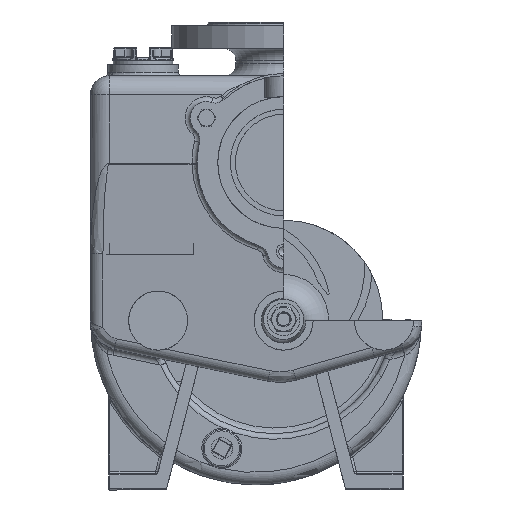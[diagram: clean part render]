
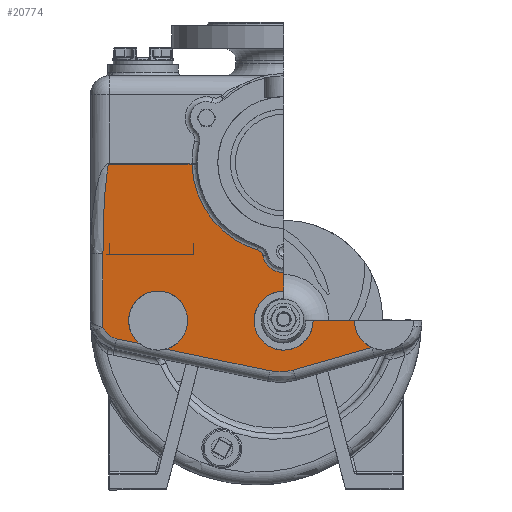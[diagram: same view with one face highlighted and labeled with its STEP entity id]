
A CAD part, left-side view. The second image highlights one B-rep face of the part: STEP entity #20774.
In plain terms, the highlighted planar face has unit normal (-0.998, 0, -0.07) as drawn and (0, -0.07, 0.998) by its records, which use the part's own axes.
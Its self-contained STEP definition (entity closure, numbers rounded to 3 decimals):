
#155=ELLIPSE('',#22818,17.042,17.);
#157=ELLIPSE('',#22821,6.015,6.);
#159=ELLIPSE('',#22824,73.178,73.);
#186=ELLIPSE('',#23026,23.557,23.5);
#187=ELLIPSE('',#23027,23.557,23.5);
#188=ELLIPSE('',#23031,23.557,23.5);
#189=ELLIPSE('',#23037,38.594,38.5);
#190=ELLIPSE('',#23039,15.037,15.);
#206=ELLIPSE('',#23205,71.678,5.);
#208=ELLIPSE('',#23212,23.557,23.5);
#3785=FACE_OUTER_BOUND('',#5088,.T.);
#5088=EDGE_LOOP('',(#16797,#16798,#16799,#16800,#16801,#16802,#16803,#16804,
#16805,#16806,#16807,#16808,#16809,#16810,#16811,#16812,#16813));
#6272=LINE('',#35658,#7571);
#6432=LINE('',#38208,#7731);
#6445=LINE('',#38419,#7744);
#6446=LINE('',#38423,#7745);
#6447=LINE('',#38498,#7746);
#6520=LINE('',#39729,#7819);
#6521=LINE('',#39731,#7820);
#7571=VECTOR('',#26598,10.);
#7731=VECTOR('',#27356,10.);
#7744=VECTOR('',#27389,10.);
#7745=VECTOR('',#27394,10.);
#7746=VECTOR('',#27407,10.);
#7819=VECTOR('',#27814,10.);
#7820=VECTOR('',#27817,10.);
#9229=VERTEX_POINT('',#35649);
#9230=VERTEX_POINT('',#35657);
#9315=VERTEX_POINT('',#36484);
#9317=VERTEX_POINT('',#36514);
#9319=VERTEX_POINT('',#36554);
#9489=VERTEX_POINT('',#38205);
#9490=VERTEX_POINT('',#38207);
#9519=VERTEX_POINT('',#38342);
#9520=VERTEX_POINT('',#38344);
#9521=VERTEX_POINT('',#38346);
#9523=VERTEX_POINT('',#38391);
#9525=VERTEX_POINT('',#38418);
#9526=VERTEX_POINT('',#38421);
#9527=VERTEX_POINT('',#38454);
#9528=VERTEX_POINT('',#38493);
#9610=VERTEX_POINT('',#39720);
#9611=VERTEX_POINT('',#39722);
#11544=EDGE_CURVE('',#9230,#9229,#6272,.T.);
#11669=EDGE_CURVE('',#9315,#9229,#155,.T.);
#11672=EDGE_CURVE('',#9317,#9315,#157,.T.);
#11675=EDGE_CURVE('',#9319,#9317,#159,.T.);
#11951=EDGE_CURVE('',#9490,#9489,#6432,.T.);
#11984=EDGE_CURVE('',#9520,#9519,#186,.T.);
#11986=EDGE_CURVE('',#9519,#9521,#187,.T.);
#11989=EDGE_CURVE('',#9523,#9490,#188,.T.);
#11992=EDGE_CURVE('',#9520,#9525,#6445,.T.);
#11995=EDGE_CURVE('',#9526,#9521,#6446,.T.);
#11997=EDGE_CURVE('',#9527,#9526,#189,.T.);
#11999=EDGE_CURVE('',#9525,#9528,#190,.T.);
#12001=EDGE_CURVE('',#9523,#9527,#6447,.T.);
#12176=EDGE_CURVE('',#9610,#9611,#206,.T.);
#12180=EDGE_CURVE('',#9611,#9319,#6520,.T.);
#12181=EDGE_CURVE('',#9528,#9610,#6521,.T.);
#12185=EDGE_CURVE('',#9489,#9230,#208,.T.);
#16797=ORIENTED_EDGE('',*,*,#11675,.F.);
#16798=ORIENTED_EDGE('',*,*,#12180,.F.);
#16799=ORIENTED_EDGE('',*,*,#12176,.F.);
#16800=ORIENTED_EDGE('',*,*,#12181,.F.);
#16801=ORIENTED_EDGE('',*,*,#11999,.F.);
#16802=ORIENTED_EDGE('',*,*,#11992,.F.);
#16803=ORIENTED_EDGE('',*,*,#11984,.T.);
#16804=ORIENTED_EDGE('',*,*,#11986,.T.);
#16805=ORIENTED_EDGE('',*,*,#11995,.F.);
#16806=ORIENTED_EDGE('',*,*,#11997,.F.);
#16807=ORIENTED_EDGE('',*,*,#12001,.F.);
#16808=ORIENTED_EDGE('',*,*,#11989,.T.);
#16809=ORIENTED_EDGE('',*,*,#11951,.T.);
#16810=ORIENTED_EDGE('',*,*,#12185,.T.);
#16811=ORIENTED_EDGE('',*,*,#11544,.T.);
#16812=ORIENTED_EDGE('',*,*,#11669,.F.);
#16813=ORIENTED_EDGE('',*,*,#11672,.F.);
#19891=PLANE('',#23211);
#20774=ADVANCED_FACE('',(#3785),#19891,.F.);
#22818=AXIS2_PLACEMENT_3D('',#36486,#26840,#26841);
#22821=AXIS2_PLACEMENT_3D('',#36516,#26846,#26847);
#22824=AXIS2_PLACEMENT_3D('',#36556,#26852,#26853);
#23026=AXIS2_PLACEMENT_3D('',#38345,#27373,#27374);
#23027=AXIS2_PLACEMENT_3D('',#38361,#27375,#27376);
#23031=AXIS2_PLACEMENT_3D('',#38392,#27383,#27384);
#23037=AXIS2_PLACEMENT_3D('',#38456,#27397,#27398);
#23039=AXIS2_PLACEMENT_3D('',#38495,#27401,#27402);
#23205=AXIS2_PLACEMENT_3D('',#39723,#27805,#27806);
#23211=AXIS2_PLACEMENT_3D('',#39737,#27823,#27824);
#23212=AXIS2_PLACEMENT_3D('',#39738,#27825,#27826);
#26598=DIRECTION('',(0.,0.998,0.07));
#26840=DIRECTION('center_axis',(0.,-0.07,
0.998));
#26841=DIRECTION('ref_axis',(0.,-0.998,-0.07));
#26846=DIRECTION('center_axis',(0.,0.07,
-0.998));
#26847=DIRECTION('ref_axis',(0.,0.998,0.07));
#26852=DIRECTION('center_axis',(0.,-0.07,
0.998));
#26853=DIRECTION('ref_axis',(0.,-0.998,-0.07));
#27356=DIRECTION('',(-1.,0.,0.));
#27373=DIRECTION('center_axis',(0.,0.07,
-0.998));
#27374=DIRECTION('ref_axis',(0.,0.998,0.07));
#27375=DIRECTION('center_axis',(0.,0.07,
-0.998));
#27376=DIRECTION('ref_axis',(0.,0.998,0.07));
#27383=DIRECTION('center_axis',(0.,0.07,
-0.998));
#27384=DIRECTION('ref_axis',(0.,0.998,0.07));
#27389=DIRECTION('',(-0.979,0.205,0.014));
#27394=DIRECTION('',(-0.979,0.205,0.014));
#27397=DIRECTION('center_axis',(0.,0.07,
-0.998));
#27398=DIRECTION('ref_axis',(0.,-0.998,-0.07));
#27401=DIRECTION('center_axis',(0.,0.07,
-0.998));
#27402=DIRECTION('ref_axis',(0.,-0.998,-0.07));
#27407=DIRECTION('',(-0.961,-0.275,-0.019));
#27805=DIRECTION('center_axis',(0.,0.07,
-0.998));
#27806=DIRECTION('ref_axis',(0.,0.998,0.07));
#27814=DIRECTION('',(1.,0.,0.));
#27817=DIRECTION('',(0.,0.998,0.07));
#27823=DIRECTION('center_axis',(0.,0.07,
-0.998));
#27824=DIRECTION('ref_axis',(-1.,0.,0.));
#27825=DIRECTION('center_axis',(0.,0.07,
-0.998));
#27826=DIRECTION('ref_axis',(0.,0.998,0.07));
#35649=CARTESIAN_POINT('',(22.,37.279,123.936));
#35657=CARTESIAN_POINT('',(22.,22.5,122.902));
#35658=CARTESIAN_POINT('',(22.,-33.614,118.979));
#36484=CARTESIAN_POINT('',(5.363,50.786,124.88));
#36486=CARTESIAN_POINT('Origin',(22.,54.279,125.125));
#36514=CARTESIAN_POINT('',(1.2,55.305,125.196));
#36516=CARTESIAN_POINT('Origin',(-0.509,49.554,124.794));
#36554=CARTESIAN_POINT('',(-50.982,123.652,129.976));
#36556=CARTESIAN_POINT('Origin',(22.,125.279,130.089));
#38205=CARTESIAN_POINT('',(45.5,-1.,121.259));
#38207=CARTESIAN_POINT('',(78.5,-1.,121.259));
#38208=CARTESIAN_POINT('',(141.124,-1.,121.259));
#38342=CARTESIAN_POINT('',(-54.5,-1.,121.259));
#38344=CARTESIAN_POINT('',(-92.713,-19.324,119.978));
#38345=CARTESIAN_POINT('Origin',(-78.,-1.,121.259));
#38346=CARTESIAN_POINT('',(-71.856,-23.683,119.673));
#38361=CARTESIAN_POINT('Origin',(-78.,-1.,121.259));
#38391=CARTESIAN_POINT('',(92.334,-22.42,119.761));
#38392=CARTESIAN_POINT('Origin',(102.,-1.,121.259));
#38418=CARTESIAN_POINT('',(-111.068,-15.489,120.246));
#38419=CARTESIAN_POINT('',(72.036,-53.75,117.57));
#38421=CARTESIAN_POINT('',(11.212,-41.04,118.459));
#38423=CARTESIAN_POINT('',(72.036,-53.75,117.57));
#38454=CARTESIAN_POINT('',(29.689,-40.366,118.506));
#38456=CARTESIAN_POINT('Origin',(19.087,-3.354,121.095));
#38493=CARTESIAN_POINT('',(-122.,-6.191,120.896));
#38495=CARTESIAN_POINT('Origin',(-108.,-0.806,121.273));
#38498=CARTESIAN_POINT('',(122.05,-13.908,120.357));
#39720=CARTESIAN_POINT('',(-122.,52.148,124.976));
#39722=CARTESIAN_POINT('',(-117.,123.652,129.976));
#39723=CARTESIAN_POINT('Origin',(-117.,52.148,124.976));
#39729=CARTESIAN_POINT('',(66.,123.652,129.976));
#39731=CARTESIAN_POINT('',(-122.,-4.268,121.031));
#39737=CARTESIAN_POINT('Origin',(132.,-67.115,116.636));
#39738=CARTESIAN_POINT('Origin',(22.,-1.,121.259));
